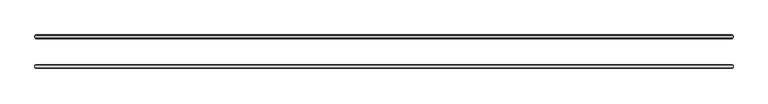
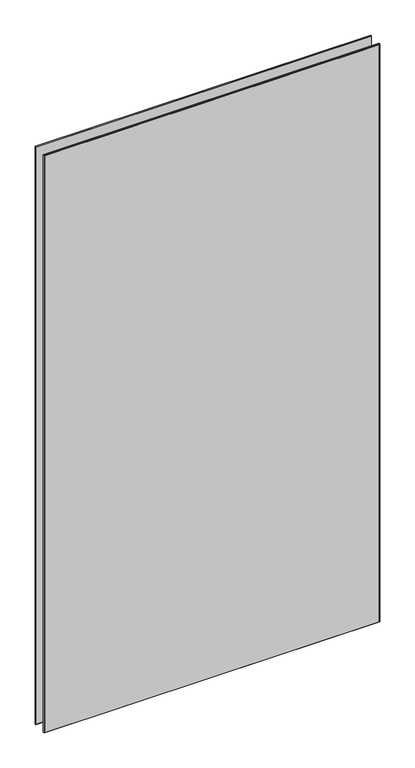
"""IFC4 building model written with IfcOpenShell, lengths in millimetres: plate geometry, 3-AMG-2-Панель двойной витраж 8, 10 : Смещение 32 Толщина 8mm."""

from ifc_helpers import new_model, si_unit, origin, place, context, project, spatial, faceted_brep, source, transform, mapped, element, save


def plate_aca7a658(model_context):
    return source(origin(), model_context, "Body", "Brep", [
        faceted_brep([(751.1070315, -34.4961653, 2722.8), (751.1070315, -29.5038347, 2722.8), (-751.1070315, -29.5038347, 2722.8), (-751.1070315, -34.4961653, 2722.8), (751.1070315, -29.5038347, -7.0), (751.1070315, -34.4961653, -7.0), (-751.1070315, -34.4961653, -7.0), (-751.1070315, -29.5038347, -7.0), (-749.6031968, -28.0, 2721.2961653), (749.6031968, -28.0, 2721.2961653), (749.6031968, -28.0, -5.5039422), (-749.6031968, -28.0, -5.5039422), (749.6031968, -36.0, 2721.2961653), (-749.6031968, -36.0, 2721.2961653), (-749.6031968, -36.0, -5.4961653), (749.6031968, -36.0, -5.4961653)], [[[0, 1, 2, 3]], [[4, 5, 6, 7]], [[8, 9, 10, 11]], [[3, 2, 7, 6]], [[12, 13, 14, 15]], [[1, 0, 5, 4]], [[1, 4, 10, 9]], [[5, 0, 12, 15]], [[0, 3, 13, 12]], [[2, 1, 9, 8]], [[7, 2, 8, 11]], [[3, 6, 14, 13]], [[6, 5, 15, 14]], [[4, 7, 11, 10]]]),
        faceted_brep([(751.1070315, 29.5038347, 2722.8), (751.1070315, 34.4961653, 2722.8), (-751.1070315, 34.4961653, 2722.8), (-751.1070315, 29.5038347, 2722.8), (751.1070315, 34.4961653, -7.0), (751.1070315, 29.5038347, -7.0), (-751.1070315, 29.5038347, -7.0), (-751.1070315, 34.4961653, -7.0), (-749.6031968, 36.0, 2721.2961653), (749.6031968, 36.0, 2721.2961653), (749.6031968, 36.0, -5.5039422), (-749.6031968, 36.0, -5.5039422), (749.6031968, 28.0, 2721.2961653), (-749.6031968, 28.0, 2721.2961653), (-749.6031968, 28.0, -5.4961653), (749.6031968, 28.0, -5.4961653)], [[[0, 1, 2, 3]], [[4, 5, 6, 7]], [[8, 9, 10, 11]], [[3, 2, 7, 6]], [[12, 13, 14, 15]], [[1, 0, 5, 4]], [[1, 4, 10, 9]], [[5, 0, 12, 15]], [[7, 2, 8, 11]], [[3, 6, 14, 13]], [[0, 3, 13, 12]], [[2, 1, 9, 8]], [[6, 5, 15, 14]], [[4, 7, 11, 10]]]),
    ])


if __name__ == "__main__":
    model = new_model("IFC4")
    model_context = context("Model", 3, world=origin())
    ifc_project = project(units=[si_unit("LENGTHUNIT", "METRE", prefix="MILLI")], contexts=[model_context])
    site = spatial("IfcSite", under=ifc_project)
    building = spatial("IfcBuilding", under=site)
    placement = place(None, origin())
    plate_shape = plate_aca7a658(model_context)
    element("IfcPlate", 1, ObjectType="3-AMG-2-Панель двойной витраж 8, 10 : Смещение 32 Толщина 8mm", at=placement, inside=building, context=model_context, shape_type="MappedRepresentation", body=[
        mapped(plate_shape, transform((0.0, 0.0, 0.0), x_axis=(1.0, 0.0, 0.0), y_axis=(0.0, 1.0, 0.0), z_axis=(0.0, 0.0, 1.0))),
    ])
    save(model, "model.ifc")
